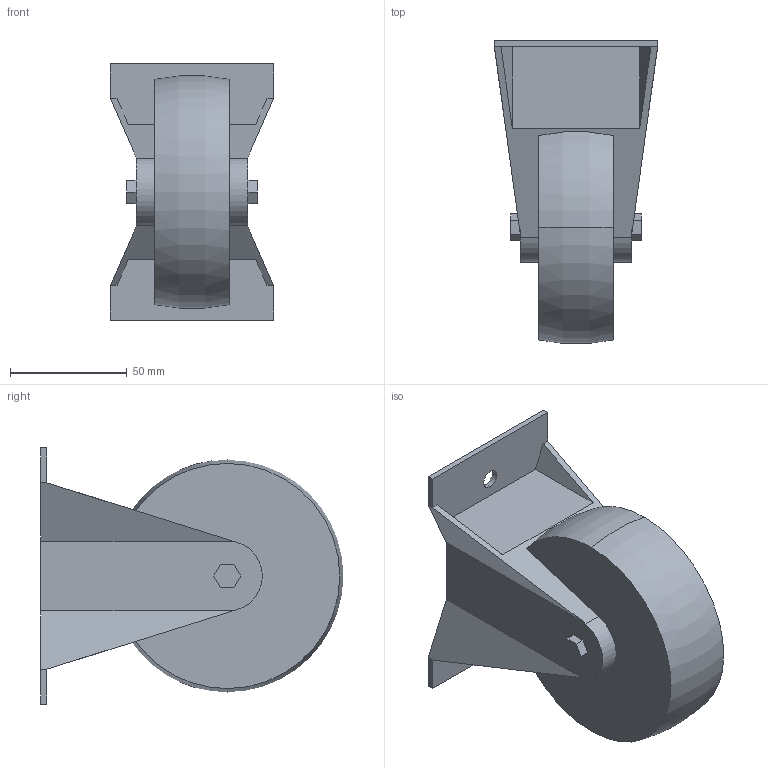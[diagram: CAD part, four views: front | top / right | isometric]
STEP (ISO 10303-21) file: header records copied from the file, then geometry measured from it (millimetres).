
FILE_DESCRIPTION (( 'STEP AP214' ), '1' );
FILE_NAME ('SK-100.step', '2024-02-19T02:00:31', ( 'catia' ), ( 'HP Inc.' ), 'SwSTEP 2.0', 'SolidWorks 2021', '' );
FILE_SCHEMA (( 'AUTOMOTIVE_DESIGN' ));
Length unit declared in the file: millimetre
Products named in the file (1): SK-100
Bounding box: 70 x 129.81 x 110 mm (x, y, z)
Volume: 399708.8 mm3; surface area: 46612.8 mm2
Topology: 1 solids, 1 shells, 48 faces, 128 edges, 84 vertices
Faces by surface type: plane 39, cylinder 6, torus 3
Entity records: 1540 total; most frequent: CARTESIAN_POINT 283, ORIENTED_EDGE 256, DIRECTION 244, EDGE_CURVE 128, LINE 106, VECTOR 106, VERTEX_POINT 84, AXIS2_PLACEMENT_3D 69
